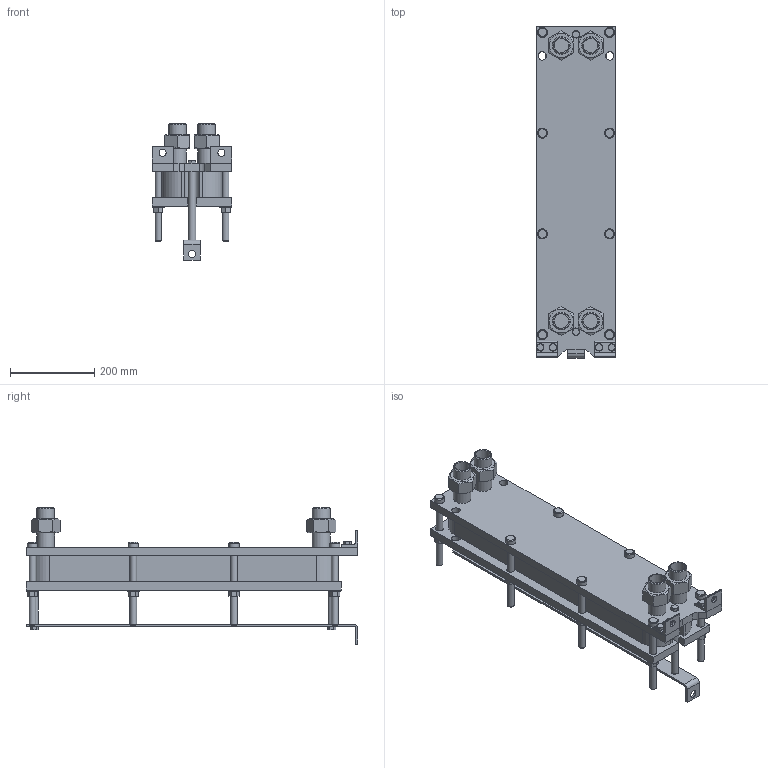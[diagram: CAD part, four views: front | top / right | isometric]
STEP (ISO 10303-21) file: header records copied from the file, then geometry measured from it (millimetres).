
FILE_DESCRIPTION(/* description */ (''),/* implementation_level */ '2;1');
FILE_NAME(/* name */ 'C:\Users\zhuro\Desktop\ENCO\TO\ЭН-008\ЭН-0,5-008-20-1.stp',/* time_stamp */ '2022-06-06T10:46:27+03:00',/* author */ ('zhuro'),/* organization */ (''),/* preprocessor_version */ 'ST-DEVELOPER v18.1',/* originating_system */ 'Autodesk Inventor 2022',/* authorisation */ '');
FILE_SCHEMA (('AUTOMOTIVE_DESIGN { 1 0 10303 214 3 1 1 }'));
Length unit declared in the file: millimetre
Products named in the file (1): ЭН-0,5-008-20-1
Bounding box: 190 x 790 x 325 mm (x, y, z)
Volume: 12953835.4 mm3; surface area: 1344818.4 mm2
Topology: 40 solids, 40 shells, 428 faces, 924 edges, 606 vertices
Faces by surface type: plane 273, cylinder 109, cone 40, torus 6
Full cylindrical faces by diameter (mm): 12 x6, 14 x2, 16 x20, 17 x8, 18 x19, 20 x5, 24 x8, 28 x8, 34.3 x8, 42.3 x8
Entity records: 15843 total; most frequent: CARTESIAN_POINT 5991, DIRECTION 1984, ORIENTED_EDGE 1848, EDGE_CURVE 924, AXIS2_PLACEMENT_3D 715, VERTEX_POINT 606, LINE 554, VECTOR 554
